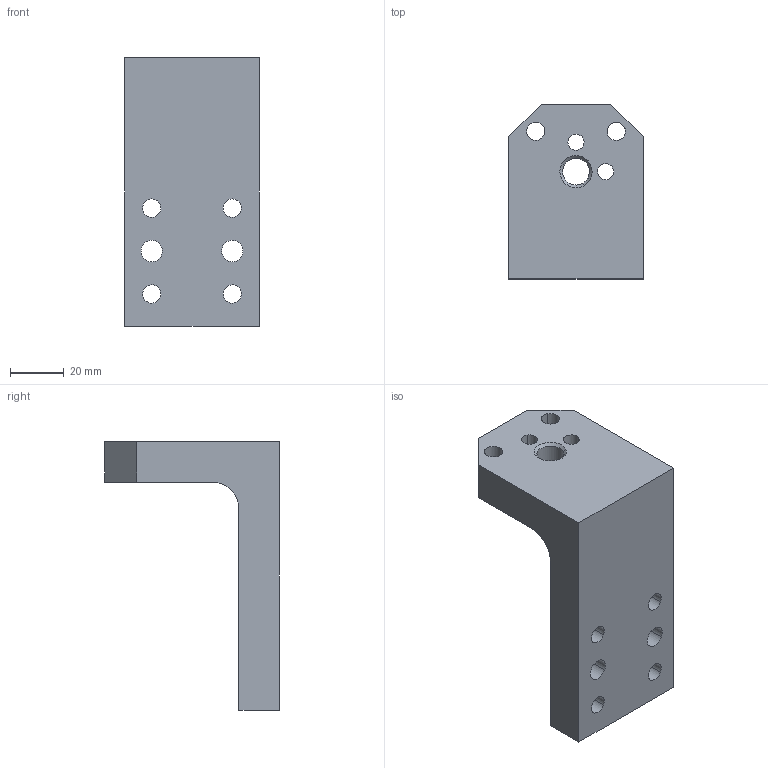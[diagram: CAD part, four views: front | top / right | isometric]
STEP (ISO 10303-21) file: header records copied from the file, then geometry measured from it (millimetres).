
FILE_DESCRIPTION(('CATIA V5 STEP Exchange'),'2;1');
FILE_NAME('\\Tcn-server2\产品部\2-PDD Database\6-Gripping\500-Other product\2-Euro gripper system\Euro Gripper to customer\Euro gripper-3D model for design-V2\EGT287-1.stp','2013-08-02T09:49:17+00:00',('none'),('none'),'CATIA Version 5 Release 21 GA (IN-10)','CATIA V5 STEP AP203','none');
FILE_SCHEMA(('CONFIG_CONTROL_DESIGN'));
Length unit declared in the file: millimetre
Products named in the file (1): EGT287-1
Bounding box: 50 x 65 x 100 mm (x, y, z)
Volume: 104593.5 mm3; surface area: 23118.7 mm2
Topology: 1 solids, 1 shells, 36 faces, 100 edges, 66 vertices
Faces by surface type: cylinder 23, plane 10, cone 3
Entity records: 1310 total; most frequent: CARTESIAN_POINT 313, ORIENTED_EDGE 200, DIRECTION 165, EDGE_CURVE 100, AXIS2_PLACEMENT_3D 80, VERTEX_POINT 66, EDGE_LOOP 58, VECTOR 50
